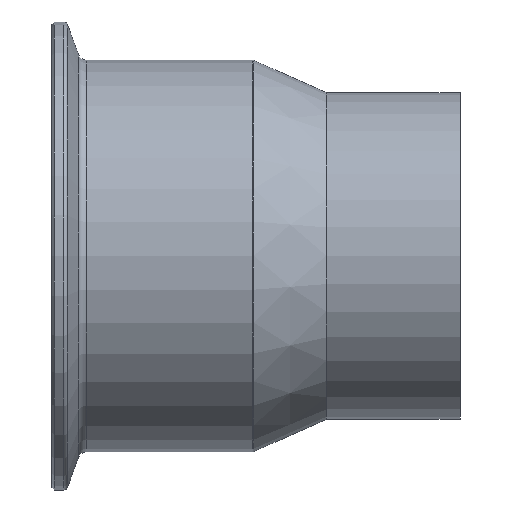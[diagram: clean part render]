
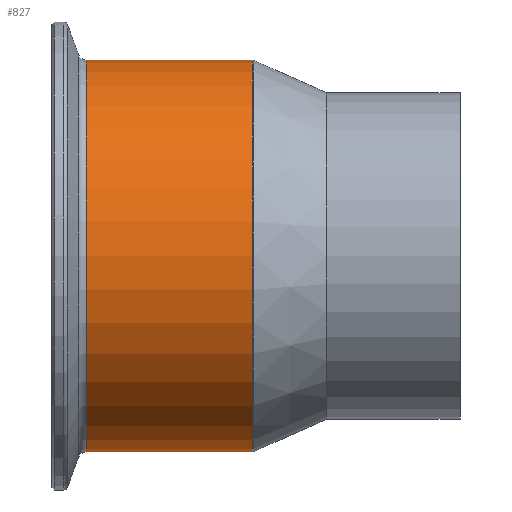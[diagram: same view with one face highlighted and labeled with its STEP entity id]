
A CAD part, top view. The second image highlights one B-rep face of the part: STEP entity #827.
In plain terms, the highlighted cylindrical face has radius 38.1 mm (diameter 76.2 mm), a partial arc.
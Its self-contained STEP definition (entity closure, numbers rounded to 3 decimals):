
#13 = DIRECTION ( 'NONE',  ( 1., 0., 0. ) ) ;
#28 = CARTESIAN_POINT ( 'NONE',  ( 0., 0., 0. ) ) ;
#50 = VERTEX_POINT ( 'NONE', #585 ) ;
#81 = LINE ( 'NONE', #819, #314 ) ;
#112 = VERTEX_POINT ( 'NONE', #1099 ) ;
#133 = VECTOR ( 'NONE', #13, 1000. ) ;
#165 = EDGE_LOOP ( 'NONE', ( #900, #386, #621, #212 ) ) ;
#170 = CIRCLE ( 'NONE', #209, 38.1 ) ;
#201 = DIRECTION ( 'NONE',  ( 0., 1., 0. ) ) ;
#206 = DIRECTION ( 'NONE',  ( 0., 1., 0. ) ) ;
#209 = AXIS2_PLACEMENT_3D ( 'NONE', #544, #637, #288 ) ;
#212 = ORIENTED_EDGE ( 'NONE', *, *, #524, .F. ) ;
#288 = DIRECTION ( 'NONE',  ( 0., -1., 0. ) ) ;
#314 = VECTOR ( 'NONE', #817, 1000. ) ;
#317 = EDGE_CURVE ( 'NONE', #112, #659, #81, .T. ) ;
#353 = CARTESIAN_POINT ( 'NONE',  ( -40.432, 38.1, 0. ) ) ;
#374 = CARTESIAN_POINT ( 'NONE',  ( -40.432, -38.1, 0. ) ) ;
#375 = AXIS2_PLACEMENT_3D ( 'NONE', #1072, #551, #201 ) ;
#386 = ORIENTED_EDGE ( 'NONE', *, *, #317, .T. ) ;
#456 = CYLINDRICAL_SURFACE ( 'NONE', #951, 38.1 ) ;
#524 = EDGE_CURVE ( 'NONE', #50, #665, #580, .T. ) ;
#543 = CARTESIAN_POINT ( 'NONE',  ( 0., 38.1, 0. ) ) ;
#544 = CARTESIAN_POINT ( 'NONE',  ( -40.432, 0., 0. ) ) ;
#551 = DIRECTION ( 'NONE',  ( 1., 0., 0. ) ) ;
#570 = CIRCLE ( 'NONE', #375, 38.1 ) ;
#580 = LINE ( 'NONE', #543, #133 ) ;
#585 = CARTESIAN_POINT ( 'NONE',  ( -72.711, 38.1, 0. ) ) ;
#621 = ORIENTED_EDGE ( 'NONE', *, *, #701, .T. ) ;
#637 = DIRECTION ( 'NONE',  ( -1., 0., 0. ) ) ;
#659 = VERTEX_POINT ( 'NONE', #374 ) ;
#665 = VERTEX_POINT ( 'NONE', #353 ) ;
#701 = EDGE_CURVE ( 'NONE', #659, #665, #170, .T. ) ;
#725 = EDGE_CURVE ( 'NONE', #50, #112, #570, .T. ) ;
#817 = DIRECTION ( 'NONE',  ( 1., 0., 0. ) ) ;
#819 = CARTESIAN_POINT ( 'NONE',  ( 0., -38.1, 0. ) ) ;
#827 = ADVANCED_FACE ( 'NONE', ( #909 ), #456, .T. ) ;
#900 = ORIENTED_EDGE ( 'NONE', *, *, #725, .T. ) ;
#909 = FACE_OUTER_BOUND ( 'NONE', #165, .T. ) ;
#951 = AXIS2_PLACEMENT_3D ( 'NONE', #28, #1084, #206 ) ;
#1072 = CARTESIAN_POINT ( 'NONE',  ( -72.711, 0., 0. ) ) ;
#1084 = DIRECTION ( 'NONE',  ( 1., 0., 0. ) ) ;
#1099 = CARTESIAN_POINT ( 'NONE',  ( -72.711, -38.1, 0. ) ) ;
